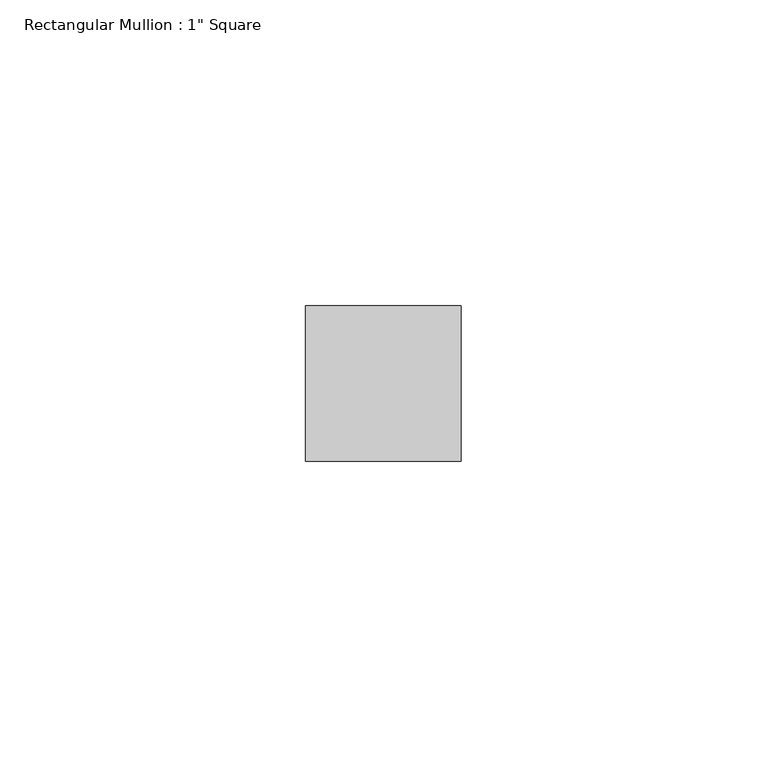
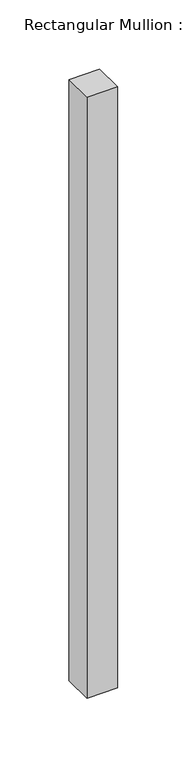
"""IFC4 building model written with IfcOpenShell, lengths in millimetres: member geometry."""

from ifc_helpers import new_model, si_unit, frame, origin, place, context, project, spatial, polyline, outline, extrude, source, transform, mapped, element, save


def member_c5f5a388(model_context):
    return source(origin(), model_context, "Body", "SweptSolid", [
        extrude(outline(polyline([(12.7, 12.7), (12.7, -12.7), (-12.7, -12.7), (-12.7, 12.7), (12.7, 12.7)])), frame((0.0, 0.0, -528.7296058), z_axis=(0.0, 0.0, 1.0), x_axis=(1.0, 0.0, 0.0)), (0.0, 0.0, 1.0), 528.7296058),
    ])


if __name__ == "__main__":
    model = new_model("IFC4")
    model_context = context("Model", 3, world=origin())
    ifc_project = project(units=[si_unit("LENGTHUNIT", "METRE", prefix="MILLI")], contexts=[model_context])
    site = spatial("IfcSite", under=ifc_project)
    building = spatial("IfcBuilding", under=site)
    placement = place(None, origin())
    member_shape = member_c5f5a388(model_context)
    element("IfcMember", 1, ObjectType="Rectangular Mullion : 1\" Square", at=placement, inside=building, context=model_context, shape_type="MappedRepresentation", body=[
        mapped(member_shape, transform((0.0, 0.0, 0.0), x_axis=(1.0, 0.0, 0.0), y_axis=(0.0, 1.0, 0.0), z_axis=(0.0, 0.0, 1.0))),
    ])
    save(model, "model.ifc")
